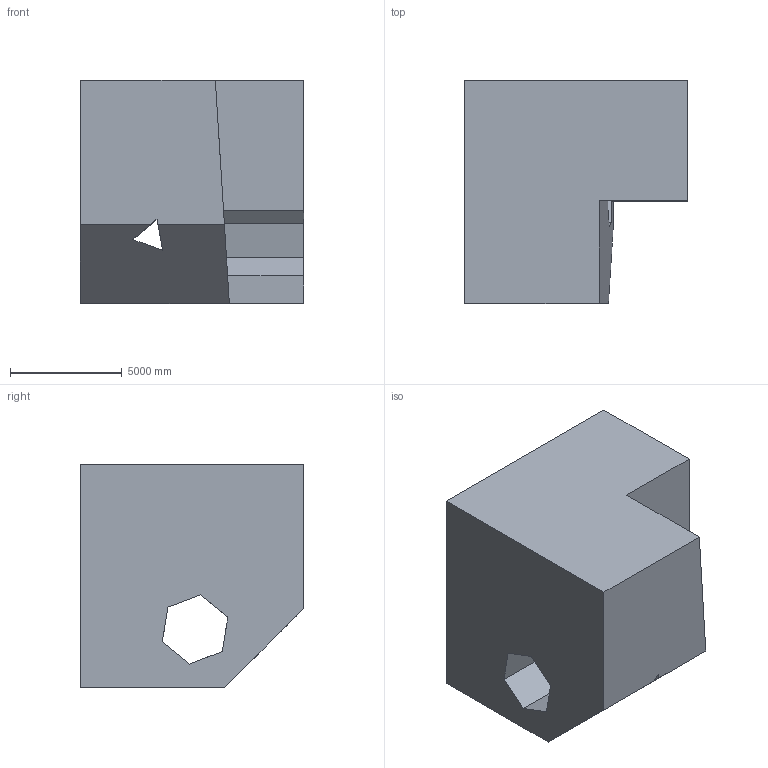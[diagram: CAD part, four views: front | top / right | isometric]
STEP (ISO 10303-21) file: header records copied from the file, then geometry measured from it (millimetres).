
FILE_DESCRIPTION (( 'STEP AP203' ), '1' );
FILE_NAME ('1302.STEP', '2022-08-18T13:38:53', ( 'user' ), ( '' ), 'SwSTEP 2.0', 'SolidWorks 2021', '' );
FILE_SCHEMA (( 'CONFIG_CONTROL_DESIGN' ));
Length unit declared in the file: centimetre
Products named in the file (1): 1302
Bounding box: 10000 x 10000 x 10000 mm (x, y, z)
Volume: 729341999935.6 mm3; surface area: 622116092.7 mm2
Topology: 1 solids, 1 shells, 22 faces, 72 edges, 48 vertices
Faces by surface type: plane 22
Entity records: 865 total; most frequent: ORIENTED_EDGE 144, CARTESIAN_POINT 143, DIRECTION 118, LINE 72, EDGE_CURVE 72, VECTOR 72, VERTEX_POINT 48, EDGE_LOOP 24
